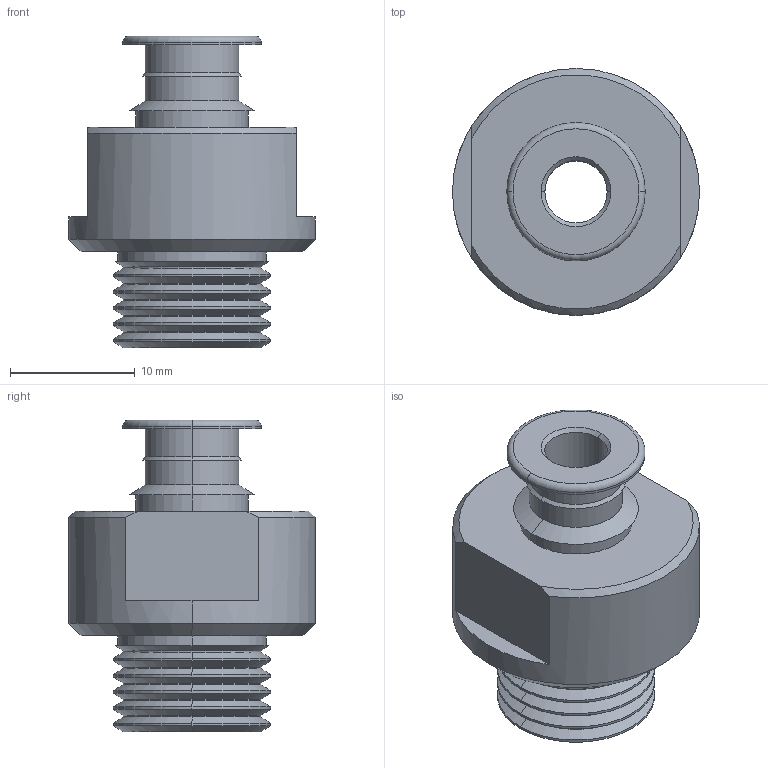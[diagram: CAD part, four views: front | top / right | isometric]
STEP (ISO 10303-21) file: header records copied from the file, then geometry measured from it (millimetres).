
FILE_DESCRIPTION (( 'STEP AP214' ), '1' );
FILE_NAME ('VM20-G14.STEP', '2023-03-06T01:59:32', ( 'Windows User' ), ( 'P R C' ), 'SwSTEP 2.0', 'SolidWorks 2019', '' );
FILE_SCHEMA (( 'AUTOMOTIVE_DESIGN' ));
Length unit declared in the file: millimetre
Products named in the file (1): VM20-G14
Bounding box: 19.8 x 19.8 x 25 mm (x, y, z)
Volume: 3638.7 mm3; surface area: 2292.2 mm2
Topology: 1 solids, 1 shells, 82 faces, 170 edges, 96 vertices
Faces by surface type: cone 34, cylinder 34, plane 12, torus 2
Entity records: 2192 total; most frequent: DIRECTION 424, CARTESIAN_POINT 361, ORIENTED_EDGE 340, AXIS2_PLACEMENT_3D 175, EDGE_CURVE 170, VERTEX_POINT 96, CIRCLE 92, EDGE_LOOP 90
